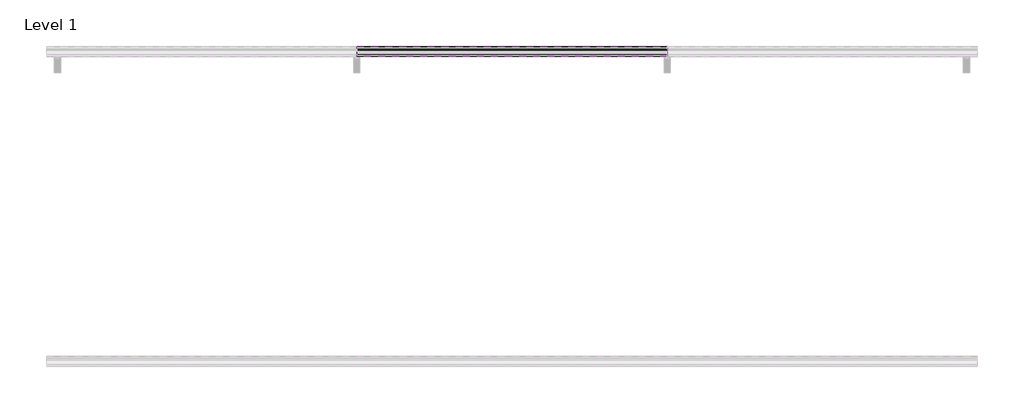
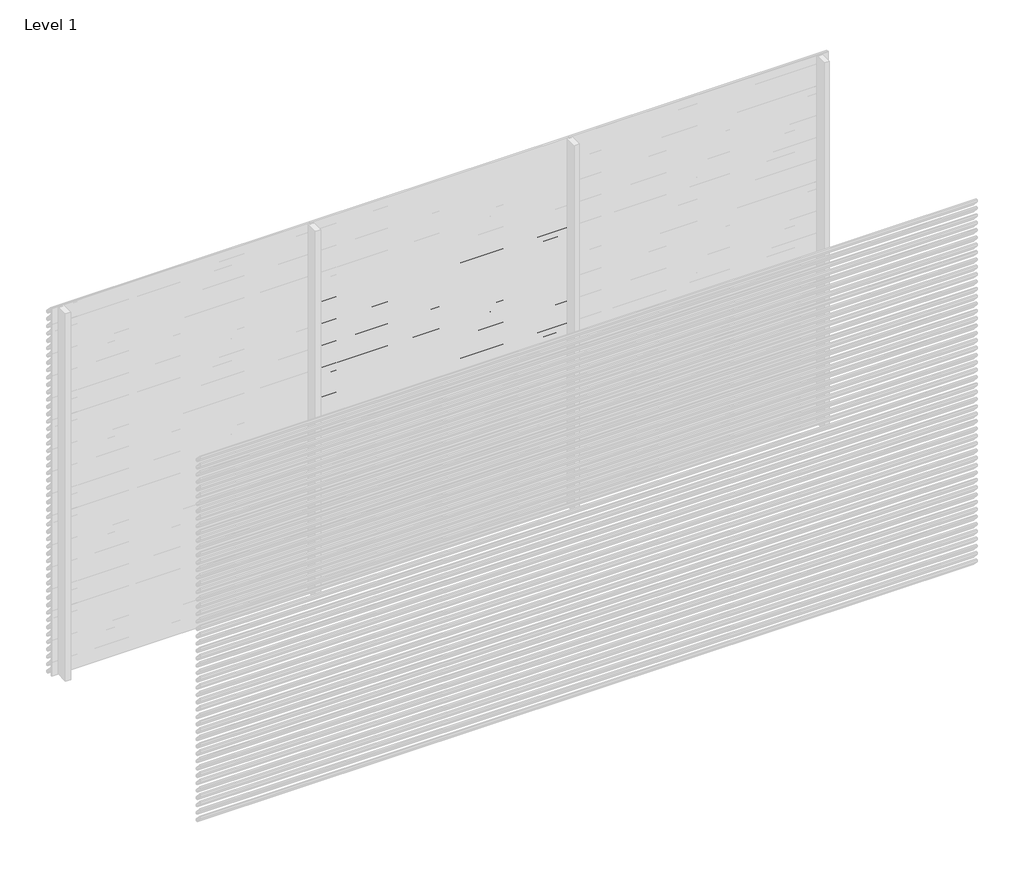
# One storey, part 57 of 153: 33 proxies.
"""IFC4 building model written with IfcOpenShell, lengths in millimetres."""

from ifc_helpers import new_model, si_unit, point, frame, frame_2d, origin, place, context, project, spatial, polyline, circle_curve, trimmed, segment, composite_curve, outline, extrude, element, save

model = new_model("IFC4")

# Units and contexts
model_context = context("Model", 3, world=origin())
ifc_project = project(units=[si_unit("LENGTHUNIT", "METRE", prefix="MILLI")], contexts=[model_context])

# Site, building, storey
site = spatial("IfcSite", under=ifc_project)
building = spatial("IfcBuilding", under=site)
storey = spatial("IfcBuildingStorey", under=building, Name="Level 1", Elevation=0.0)

# Proxies
placement = place(None, origin())
element("IfcBuildingElementProxy", 1, Name="Wall Sweeps", at=placement, inside=storey, context=model_context, shape_type="SweptSolid", body=[
    extrude(outline(composite_curve([segment(polyline([(28985.0540136, 2340.0), (28999.874191, 2338.7034025), (29049.0540136, 2285.0102749), (29049.0540136, 2273.6108187)]), True, "CONTINUOUS"), segment(trimmed(circle_curve(frame_2d((29045.7883652, 2273.897153)), 3.2781774), [point((29049.0540136, 2273.6108187))], [point((29046.4639442, 2270.6893438))], False, "CARTESIAN"), True, "CONTINUOUS"), segment(polyline([(29046.4639442, 2270.6893438), (29034.1895723, 2271.6282758), (28985.0540136, 2325.2730773), (28985.0540136, 2340.0)]), True, "CONTINUOUS")], self_intersect=False), holes=[composite_curve([segment(polyline([(28999.1621773, 2337.2599659), (28986.5540136, 2338.3630372), (28986.5540136, 2325.856213), (29034.8952036, 2273.0786805), (29046.3312542, 2272.2038762)]), True, "CONTINUOUS"), segment(trimmed(circle_curve(frame_2d((29045.7883652, 2273.897153)), 1.7781774), [point((29046.3312542, 2272.2038762))], [point((29047.5540136, 2273.6864389))], True, "CARTESIAN"), True, "CONTINUOUS"), segment(polyline([(29047.5540136, 2273.6864389), (29047.5540136, 2284.4271392), (28999.1621773, 2337.2599659)]), True, "CONTINUOUS")], self_intersect=False)]), frame((46966.6208098, 0.0, 0.0), z_axis=(1.0, 0.0, 0.0), x_axis=(0.0, 1.0, 0.0)), (0.0, 0.0, 1.0), 1999.9999998),
])
element("IfcBuildingElementProxy", 2, Name="Wall Sweeps", at=placement, inside=storey, context=model_context, shape_type="SweptSolid", body=[
    extrude(outline(composite_curve([segment(polyline([(28985.0540136, 2280.0), (28999.874191, 2278.7034025), (29049.0540136, 2225.0102749), (29049.0540136, 2213.6108187)]), True, "CONTINUOUS"), segment(trimmed(circle_curve(frame_2d((29045.7883652, 2213.897153)), 3.2781774), [point((29049.0540136, 2213.6108187))], [point((29046.4639442, 2210.6893438))], False, "CARTESIAN"), True, "CONTINUOUS"), segment(polyline([(29046.4639442, 2210.6893438), (29034.1895723, 2211.6282758), (28985.0540136, 2265.2730773), (28985.0540136, 2280.0)]), True, "CONTINUOUS")], self_intersect=False), holes=[composite_curve([segment(polyline([(28999.1621773, 2277.2599659), (28986.5540136, 2278.3630372), (28986.5540136, 2265.856213), (29034.8952036, 2213.0786805), (29046.3312542, 2212.2038762)]), True, "CONTINUOUS"), segment(trimmed(circle_curve(frame_2d((29045.7883652, 2213.897153)), 1.7781774), [point((29046.3312542, 2212.2038762))], [point((29047.5540136, 2213.6864389))], True, "CARTESIAN"), True, "CONTINUOUS"), segment(polyline([(29047.5540136, 2213.6864389), (29047.5540136, 2224.4271392), (28999.1621773, 2277.2599659)]), True, "CONTINUOUS")], self_intersect=False)]), frame((46966.6208098, 0.0, 0.0), z_axis=(1.0, 0.0, 0.0), x_axis=(0.0, 1.0, 0.0)), (0.0, 0.0, 1.0), 1999.9999998),
])
element("IfcBuildingElementProxy", 3, Name="Wall Sweeps", at=placement, inside=storey, context=model_context, shape_type="SweptSolid", body=[
    extrude(outline(composite_curve([segment(polyline([(28985.0540136, 2220.0), (28999.874191, 2218.7034025), (29049.0540136, 2165.0102749), (29049.0540136, 2153.6108187)]), True, "CONTINUOUS"), segment(trimmed(circle_curve(frame_2d((29045.7883652, 2153.897153)), 3.2781774), [point((29049.0540136, 2153.6108187))], [point((29046.4639442, 2150.6893438))], False, "CARTESIAN"), True, "CONTINUOUS"), segment(polyline([(29046.4639442, 2150.6893438), (29034.1895723, 2151.6282758), (28985.0540136, 2205.2730773), (28985.0540136, 2220.0)]), True, "CONTINUOUS")], self_intersect=False), holes=[composite_curve([segment(polyline([(28999.1621773, 2217.2599659), (28986.5540136, 2218.3630372), (28986.5540136, 2205.856213), (29034.8952036, 2153.0786805), (29046.3312542, 2152.2038762)]), True, "CONTINUOUS"), segment(trimmed(circle_curve(frame_2d((29045.7883652, 2153.897153)), 1.7781774), [point((29046.3312542, 2152.2038762))], [point((29047.5540136, 2153.6864389))], True, "CARTESIAN"), True, "CONTINUOUS"), segment(polyline([(29047.5540136, 2153.6864389), (29047.5540136, 2164.4271392), (28999.1621773, 2217.2599659)]), True, "CONTINUOUS")], self_intersect=False)]), frame((46966.6208098, 0.0, 0.0), z_axis=(1.0, 0.0, 0.0), x_axis=(0.0, 1.0, 0.0)), (0.0, 0.0, 1.0), 1999.9999998),
])
element("IfcBuildingElementProxy", 4, Name="Wall Sweeps", at=placement, inside=storey, context=model_context, shape_type="SweptSolid", body=[
    extrude(outline(composite_curve([segment(polyline([(28985.0540136, 2160.0), (28999.874191, 2158.7034025), (29049.0540136, 2105.0102749), (29049.0540136, 2093.6108187)]), True, "CONTINUOUS"), segment(trimmed(circle_curve(frame_2d((29045.7883652, 2093.897153)), 3.2781774), [point((29049.0540136, 2093.6108187))], [point((29046.4639442, 2090.6893438))], False, "CARTESIAN"), True, "CONTINUOUS"), segment(polyline([(29046.4639442, 2090.6893438), (29034.1895723, 2091.6282758), (28985.0540136, 2145.2730773), (28985.0540136, 2160.0)]), True, "CONTINUOUS")], self_intersect=False), holes=[composite_curve([segment(polyline([(28999.1621773, 2157.2599659), (28986.5540136, 2158.3630372), (28986.5540136, 2145.856213), (29034.8952036, 2093.0786805), (29046.3312542, 2092.2038762)]), True, "CONTINUOUS"), segment(trimmed(circle_curve(frame_2d((29045.7883652, 2093.897153)), 1.7781774), [point((29046.3312542, 2092.2038762))], [point((29047.5540136, 2093.6864389))], True, "CARTESIAN"), True, "CONTINUOUS"), segment(polyline([(29047.5540136, 2093.6864389), (29047.5540136, 2104.4271392), (28999.1621773, 2157.2599659)]), True, "CONTINUOUS")], self_intersect=False)]), frame((46966.6208098, 0.0, 0.0), z_axis=(1.0, 0.0, 0.0), x_axis=(0.0, 1.0, 0.0)), (0.0, 0.0, 1.0), 1999.9999998),
])
element("IfcBuildingElementProxy", 5, Name="Wall Sweeps", at=placement, inside=storey, context=model_context, shape_type="SweptSolid", body=[
    extrude(outline(composite_curve([segment(polyline([(28985.0540136, 2100.0), (28999.874191, 2098.7034025), (29049.0540136, 2045.0102749), (29049.0540136, 2033.6108187)]), True, "CONTINUOUS"), segment(trimmed(circle_curve(frame_2d((29045.7883652, 2033.897153)), 3.2781774), [point((29049.0540136, 2033.6108187))], [point((29046.4639442, 2030.6893438))], False, "CARTESIAN"), True, "CONTINUOUS"), segment(polyline([(29046.4639442, 2030.6893438), (29034.1895723, 2031.6282758), (28985.0540136, 2085.2730773), (28985.0540136, 2100.0)]), True, "CONTINUOUS")], self_intersect=False), holes=[composite_curve([segment(polyline([(28999.1621773, 2097.2599659), (28986.5540136, 2098.3630372), (28986.5540136, 2085.856213), (29034.8952036, 2033.0786805), (29046.3312542, 2032.2038762)]), True, "CONTINUOUS"), segment(trimmed(circle_curve(frame_2d((29045.7883652, 2033.897153)), 1.7781774), [point((29046.3312542, 2032.2038762))], [point((29047.5540136, 2033.6864389))], True, "CARTESIAN"), True, "CONTINUOUS"), segment(polyline([(29047.5540136, 2033.6864389), (29047.5540136, 2044.4271392), (28999.1621773, 2097.2599659)]), True, "CONTINUOUS")], self_intersect=False)]), frame((46966.6208098, 0.0, 0.0), z_axis=(1.0, 0.0, 0.0), x_axis=(0.0, 1.0, 0.0)), (0.0, 0.0, 1.0), 1999.9999998),
])
element("IfcBuildingElementProxy", 6, Name="Wall Sweeps", at=placement, inside=storey, context=model_context, shape_type="SweptSolid", body=[
    extrude(outline(composite_curve([segment(polyline([(28985.0540136, 2040.0), (28999.874191, 2038.7034025), (29049.0540136, 1985.0102749), (29049.0540136, 1973.6108187)]), True, "CONTINUOUS"), segment(trimmed(circle_curve(frame_2d((29045.7883652, 1973.897153)), 3.2781774), [point((29049.0540136, 1973.6108187))], [point((29046.4639442, 1970.6893438))], False, "CARTESIAN"), True, "CONTINUOUS"), segment(polyline([(29046.4639442, 1970.6893438), (29034.1895723, 1971.6282758), (28985.0540136, 2025.2730773), (28985.0540136, 2040.0)]), True, "CONTINUOUS")], self_intersect=False), holes=[composite_curve([segment(polyline([(28999.1621773, 2037.2599659), (28986.5540136, 2038.3630372), (28986.5540136, 2025.856213), (29034.8952036, 1973.0786805), (29046.3312542, 1972.2038762)]), True, "CONTINUOUS"), segment(trimmed(circle_curve(frame_2d((29045.7883652, 1973.897153)), 1.7781774), [point((29046.3312542, 1972.2038762))], [point((29047.5540136, 1973.6864389))], True, "CARTESIAN"), True, "CONTINUOUS"), segment(polyline([(29047.5540136, 1973.6864389), (29047.5540136, 1984.4271392), (28999.1621773, 2037.2599659)]), True, "CONTINUOUS")], self_intersect=False)]), frame((46966.6208098, 0.0, 0.0), z_axis=(1.0, 0.0, 0.0), x_axis=(0.0, 1.0, 0.0)), (0.0, 0.0, 1.0), 1999.9999998),
])
element("IfcBuildingElementProxy", 7, Name="Wall Sweeps", at=placement, inside=storey, context=model_context, shape_type="SweptSolid", body=[
    extrude(outline(composite_curve([segment(polyline([(28985.0540136, 1980.0), (28999.874191, 1978.7034025), (29049.0540136, 1925.0102749), (29049.0540136, 1913.6108187)]), True, "CONTINUOUS"), segment(trimmed(circle_curve(frame_2d((29045.7883652, 1913.897153)), 3.2781774), [point((29049.0540136, 1913.6108187))], [point((29046.4639442, 1910.6893438))], False, "CARTESIAN"), True, "CONTINUOUS"), segment(polyline([(29046.4639442, 1910.6893438), (29034.1895723, 1911.6282758), (28985.0540136, 1965.2730773), (28985.0540136, 1980.0)]), True, "CONTINUOUS")], self_intersect=False), holes=[composite_curve([segment(polyline([(28999.1621773, 1977.2599659), (28986.5540136, 1978.3630372), (28986.5540136, 1965.856213), (29034.8952036, 1913.0786805), (29046.3312542, 1912.2038762)]), True, "CONTINUOUS"), segment(trimmed(circle_curve(frame_2d((29045.7883652, 1913.897153)), 1.7781774), [point((29046.3312542, 1912.2038762))], [point((29047.5540136, 1913.6864389))], True, "CARTESIAN"), True, "CONTINUOUS"), segment(polyline([(29047.5540136, 1913.6864389), (29047.5540136, 1924.4271392), (28999.1621773, 1977.2599659)]), True, "CONTINUOUS")], self_intersect=False)]), frame((46966.6208098, 0.0, 0.0), z_axis=(1.0, 0.0, 0.0), x_axis=(0.0, 1.0, 0.0)), (0.0, 0.0, 1.0), 1999.9999998),
])
element("IfcBuildingElementProxy", 8, Name="Wall Sweeps", at=placement, inside=storey, context=model_context, shape_type="SweptSolid", body=[
    extrude(outline(composite_curve([segment(polyline([(28985.0540136, 1920.0), (28999.874191, 1918.7034025), (29049.0540136, 1865.0102749), (29049.0540136, 1853.6108187)]), True, "CONTINUOUS"), segment(trimmed(circle_curve(frame_2d((29045.7883652, 1853.897153)), 3.2781774), [point((29049.0540136, 1853.6108187))], [point((29046.4639442, 1850.6893438))], False, "CARTESIAN"), True, "CONTINUOUS"), segment(polyline([(29046.4639442, 1850.6893438), (29034.1895723, 1851.6282758), (28985.0540136, 1905.2730773), (28985.0540136, 1920.0)]), True, "CONTINUOUS")], self_intersect=False), holes=[composite_curve([segment(polyline([(28999.1621773, 1917.2599659), (28986.5540136, 1918.3630372), (28986.5540136, 1905.856213), (29034.8952036, 1853.0786805), (29046.3312542, 1852.2038762)]), True, "CONTINUOUS"), segment(trimmed(circle_curve(frame_2d((29045.7883652, 1853.897153)), 1.7781774), [point((29046.3312542, 1852.2038762))], [point((29047.5540136, 1853.6864389))], True, "CARTESIAN"), True, "CONTINUOUS"), segment(polyline([(29047.5540136, 1853.6864389), (29047.5540136, 1864.4271392), (28999.1621773, 1917.2599659)]), True, "CONTINUOUS")], self_intersect=False)]), frame((46966.6208098, 0.0, 0.0), z_axis=(1.0, 0.0, 0.0), x_axis=(0.0, 1.0, 0.0)), (0.0, 0.0, 1.0), 1999.9999998),
])
element("IfcBuildingElementProxy", 9, Name="Wall Sweeps", at=placement, inside=storey, context=model_context, shape_type="SweptSolid", body=[
    extrude(outline(composite_curve([segment(polyline([(28985.0540136, 1860.0), (28999.874191, 1858.7034025), (29049.0540136, 1805.0102749), (29049.0540136, 1793.6108187)]), True, "CONTINUOUS"), segment(trimmed(circle_curve(frame_2d((29045.7883652, 1793.897153)), 3.2781774), [point((29049.0540136, 1793.6108187))], [point((29046.4639442, 1790.6893438))], False, "CARTESIAN"), True, "CONTINUOUS"), segment(polyline([(29046.4639442, 1790.6893438), (29034.1895723, 1791.6282758), (28985.0540136, 1845.2730773), (28985.0540136, 1860.0)]), True, "CONTINUOUS")], self_intersect=False), holes=[composite_curve([segment(polyline([(28999.1621773, 1857.2599659), (28986.5540136, 1858.3630372), (28986.5540136, 1845.856213), (29034.8952036, 1793.0786805), (29046.3312542, 1792.2038762)]), True, "CONTINUOUS"), segment(trimmed(circle_curve(frame_2d((29045.7883652, 1793.897153)), 1.7781774), [point((29046.3312542, 1792.2038762))], [point((29047.5540136, 1793.6864389))], True, "CARTESIAN"), True, "CONTINUOUS"), segment(polyline([(29047.5540136, 1793.6864389), (29047.5540136, 1804.4271392), (28999.1621773, 1857.2599659)]), True, "CONTINUOUS")], self_intersect=False)]), frame((46966.6208098, 0.0, 0.0), z_axis=(1.0, 0.0, 0.0), x_axis=(0.0, 1.0, 0.0)), (0.0, 0.0, 1.0), 1999.9999998),
])
element("IfcBuildingElementProxy", 10, Name="Wall Sweeps", at=placement, inside=storey, context=model_context, shape_type="SweptSolid", body=[
    extrude(outline(composite_curve([segment(polyline([(28985.0540136, 1800.0), (28999.874191, 1798.7034025), (29049.0540136, 1745.0102749), (29049.0540136, 1733.6108187)]), True, "CONTINUOUS"), segment(trimmed(circle_curve(frame_2d((29045.7883652, 1733.897153)), 3.2781774), [point((29049.0540136, 1733.6108187))], [point((29046.4639442, 1730.6893438))], False, "CARTESIAN"), True, "CONTINUOUS"), segment(polyline([(29046.4639442, 1730.6893438), (29034.1895723, 1731.6282758), (28985.0540136, 1785.2730773), (28985.0540136, 1800.0)]), True, "CONTINUOUS")], self_intersect=False), holes=[composite_curve([segment(polyline([(28999.1621773, 1797.2599659), (28986.5540136, 1798.3630372), (28986.5540136, 1785.856213), (29034.8952036, 1733.0786805), (29046.3312542, 1732.2038762)]), True, "CONTINUOUS"), segment(trimmed(circle_curve(frame_2d((29045.7883652, 1733.897153)), 1.7781774), [point((29046.3312542, 1732.2038762))], [point((29047.5540136, 1733.6864389))], True, "CARTESIAN"), True, "CONTINUOUS"), segment(polyline([(29047.5540136, 1733.6864389), (29047.5540136, 1744.4271392), (28999.1621773, 1797.2599659)]), True, "CONTINUOUS")], self_intersect=False)]), frame((46966.6208098, 0.0, 0.0), z_axis=(1.0, 0.0, 0.0), x_axis=(0.0, 1.0, 0.0)), (0.0, 0.0, 1.0), 1999.9999998),
])
element("IfcBuildingElementProxy", 11, Name="Wall Sweeps", at=placement, inside=storey, context=model_context, shape_type="SweptSolid", body=[
    extrude(outline(composite_curve([segment(polyline([(28985.0540136, 1740.0), (28999.874191, 1738.7034025), (29049.0540136, 1685.0102749), (29049.0540136, 1673.6108187)]), True, "CONTINUOUS"), segment(trimmed(circle_curve(frame_2d((29045.7883652, 1673.897153)), 3.2781774), [point((29049.0540136, 1673.6108187))], [point((29046.4639442, 1670.6893438))], False, "CARTESIAN"), True, "CONTINUOUS"), segment(polyline([(29046.4639442, 1670.6893438), (29034.1895723, 1671.6282758), (28985.0540136, 1725.2730773), (28985.0540136, 1740.0)]), True, "CONTINUOUS")], self_intersect=False), holes=[composite_curve([segment(polyline([(28999.1621773, 1737.2599659), (28986.5540136, 1738.3630372), (28986.5540136, 1725.856213), (29034.8952036, 1673.0786805), (29046.3312542, 1672.2038762)]), True, "CONTINUOUS"), segment(trimmed(circle_curve(frame_2d((29045.7883652, 1673.897153)), 1.7781774), [point((29046.3312542, 1672.2038762))], [point((29047.5540136, 1673.6864389))], True, "CARTESIAN"), True, "CONTINUOUS"), segment(polyline([(29047.5540136, 1673.6864389), (29047.5540136, 1684.4271392), (28999.1621773, 1737.2599659)]), True, "CONTINUOUS")], self_intersect=False)]), frame((46966.6208098, 0.0, 0.0), z_axis=(1.0, 0.0, 0.0), x_axis=(0.0, 1.0, 0.0)), (0.0, 0.0, 1.0), 1999.9999998),
])
element("IfcBuildingElementProxy", 12, Name="Wall Sweeps", at=placement, inside=storey, context=model_context, shape_type="SweptSolid", body=[
    extrude(outline(composite_curve([segment(polyline([(28985.0540136, 1680.0), (28999.874191, 1678.7034025), (29049.0540136, 1625.0102749), (29049.0540136, 1613.6108187)]), True, "CONTINUOUS"), segment(trimmed(circle_curve(frame_2d((29045.7883652, 1613.897153)), 3.2781774), [point((29049.0540136, 1613.6108187))], [point((29046.4639442, 1610.6893438))], False, "CARTESIAN"), True, "CONTINUOUS"), segment(polyline([(29046.4639442, 1610.6893438), (29034.1895723, 1611.6282758), (28985.0540136, 1665.2730773), (28985.0540136, 1680.0)]), True, "CONTINUOUS")], self_intersect=False), holes=[composite_curve([segment(polyline([(28999.1621773, 1677.2599659), (28986.5540136, 1678.3630372), (28986.5540136, 1665.856213), (29034.8952036, 1613.0786805), (29046.3312542, 1612.2038762)]), True, "CONTINUOUS"), segment(trimmed(circle_curve(frame_2d((29045.7883652, 1613.897153)), 1.7781774), [point((29046.3312542, 1612.2038762))], [point((29047.5540136, 1613.6864389))], True, "CARTESIAN"), True, "CONTINUOUS"), segment(polyline([(29047.5540136, 1613.6864389), (29047.5540136, 1624.4271392), (28999.1621773, 1677.2599659)]), True, "CONTINUOUS")], self_intersect=False)]), frame((46966.6208098, 0.0, 0.0), z_axis=(1.0, 0.0, 0.0), x_axis=(0.0, 1.0, 0.0)), (0.0, 0.0, 1.0), 1999.9999998),
])
element("IfcBuildingElementProxy", 13, Name="Wall Sweeps", at=placement, inside=storey, context=model_context, shape_type="SweptSolid", body=[
    extrude(outline(composite_curve([segment(polyline([(28985.0540136, 1620.0), (28999.874191, 1618.7034025), (29049.0540136, 1565.0102749), (29049.0540136, 1553.6108187)]), True, "CONTINUOUS"), segment(trimmed(circle_curve(frame_2d((29045.7883652, 1553.897153)), 3.2781774), [point((29049.0540136, 1553.6108187))], [point((29046.4639442, 1550.6893438))], False, "CARTESIAN"), True, "CONTINUOUS"), segment(polyline([(29046.4639442, 1550.6893438), (29034.1895723, 1551.6282758), (28985.0540136, 1605.2730773), (28985.0540136, 1620.0)]), True, "CONTINUOUS")], self_intersect=False), holes=[composite_curve([segment(polyline([(28999.1621773, 1617.2599659), (28986.5540136, 1618.3630372), (28986.5540136, 1605.856213), (29034.8952036, 1553.0786805), (29046.3312542, 1552.2038762)]), True, "CONTINUOUS"), segment(trimmed(circle_curve(frame_2d((29045.7883652, 1553.897153)), 1.7781774), [point((29046.3312542, 1552.2038762))], [point((29047.5540136, 1553.6864389))], True, "CARTESIAN"), True, "CONTINUOUS"), segment(polyline([(29047.5540136, 1553.6864389), (29047.5540136, 1564.4271392), (28999.1621773, 1617.2599659)]), True, "CONTINUOUS")], self_intersect=False)]), frame((46966.6208098, 0.0, 0.0), z_axis=(1.0, 0.0, 0.0), x_axis=(0.0, 1.0, 0.0)), (0.0, 0.0, 1.0), 1999.9999998),
])
element("IfcBuildingElementProxy", 14, Name="Wall Sweeps", at=placement, inside=storey, context=model_context, shape_type="SweptSolid", body=[
    extrude(outline(composite_curve([segment(polyline([(28985.0540136, 1560.0), (28999.874191, 1558.7034025), (29049.0540136, 1505.0102749), (29049.0540136, 1493.6108187)]), True, "CONTINUOUS"), segment(trimmed(circle_curve(frame_2d((29045.7883652, 1493.897153)), 3.2781774), [point((29049.0540136, 1493.6108187))], [point((29046.4639442, 1490.6893438))], False, "CARTESIAN"), True, "CONTINUOUS"), segment(polyline([(29046.4639442, 1490.6893438), (29034.1895723, 1491.6282758), (28985.0540136, 1545.2730773), (28985.0540136, 1560.0)]), True, "CONTINUOUS")], self_intersect=False), holes=[composite_curve([segment(polyline([(28999.1621773, 1557.2599659), (28986.5540136, 1558.3630372), (28986.5540136, 1545.856213), (29034.8952036, 1493.0786805), (29046.3312542, 1492.2038762)]), True, "CONTINUOUS"), segment(trimmed(circle_curve(frame_2d((29045.7883652, 1493.897153)), 1.7781774), [point((29046.3312542, 1492.2038762))], [point((29047.5540136, 1493.6864389))], True, "CARTESIAN"), True, "CONTINUOUS"), segment(polyline([(29047.5540136, 1493.6864389), (29047.5540136, 1504.4271392), (28999.1621773, 1557.2599659)]), True, "CONTINUOUS")], self_intersect=False)]), frame((46966.6208098, 0.0, 0.0), z_axis=(1.0, 0.0, 0.0), x_axis=(0.0, 1.0, 0.0)), (0.0, 0.0, 1.0), 1999.9999998),
])
element("IfcBuildingElementProxy", 15, Name="Wall Sweeps", at=placement, inside=storey, context=model_context, shape_type="SweptSolid", body=[
    extrude(outline(composite_curve([segment(polyline([(28985.0540136, 1500.0), (28999.874191, 1498.7034025), (29049.0540136, 1445.0102749), (29049.0540136, 1433.6108187)]), True, "CONTINUOUS"), segment(trimmed(circle_curve(frame_2d((29045.7883652, 1433.897153)), 3.2781774), [point((29049.0540136, 1433.6108187))], [point((29046.4639442, 1430.6893438))], False, "CARTESIAN"), True, "CONTINUOUS"), segment(polyline([(29046.4639442, 1430.6893438), (29034.1895723, 1431.6282758), (28985.0540136, 1485.2730773), (28985.0540136, 1500.0)]), True, "CONTINUOUS")], self_intersect=False), holes=[composite_curve([segment(polyline([(28999.1621773, 1497.2599659), (28986.5540136, 1498.3630372), (28986.5540136, 1485.856213), (29034.8952036, 1433.0786805), (29046.3312542, 1432.2038762)]), True, "CONTINUOUS"), segment(trimmed(circle_curve(frame_2d((29045.7883652, 1433.897153)), 1.7781774), [point((29046.3312542, 1432.2038762))], [point((29047.5540136, 1433.6864389))], True, "CARTESIAN"), True, "CONTINUOUS"), segment(polyline([(29047.5540136, 1433.6864389), (29047.5540136, 1444.4271392), (28999.1621773, 1497.2599659)]), True, "CONTINUOUS")], self_intersect=False)]), frame((46966.6208098, 0.0, 0.0), z_axis=(1.0, 0.0, 0.0), x_axis=(0.0, 1.0, 0.0)), (0.0, 0.0, 1.0), 1999.9999998),
])
element("IfcBuildingElementProxy", 16, Name="Wall Sweeps", at=placement, inside=storey, context=model_context, shape_type="SweptSolid", body=[
    extrude(outline(composite_curve([segment(polyline([(28985.0540136, 1440.0), (28999.874191, 1438.7034025), (29049.0540136, 1385.0102749), (29049.0540136, 1373.6108187)]), True, "CONTINUOUS"), segment(trimmed(circle_curve(frame_2d((29045.7883652, 1373.897153)), 3.2781774), [point((29049.0540136, 1373.6108187))], [point((29046.4639442, 1370.6893438))], False, "CARTESIAN"), True, "CONTINUOUS"), segment(polyline([(29046.4639442, 1370.6893438), (29034.1895723, 1371.6282758), (28985.0540136, 1425.2730773), (28985.0540136, 1440.0)]), True, "CONTINUOUS")], self_intersect=False), holes=[composite_curve([segment(polyline([(28999.1621773, 1437.2599659), (28986.5540136, 1438.3630372), (28986.5540136, 1425.856213), (29034.8952036, 1373.0786805), (29046.3312542, 1372.2038762)]), True, "CONTINUOUS"), segment(trimmed(circle_curve(frame_2d((29045.7883652, 1373.897153)), 1.7781774), [point((29046.3312542, 1372.2038762))], [point((29047.5540136, 1373.6864389))], True, "CARTESIAN"), True, "CONTINUOUS"), segment(polyline([(29047.5540136, 1373.6864389), (29047.5540136, 1384.4271392), (28999.1621773, 1437.2599659)]), True, "CONTINUOUS")], self_intersect=False)]), frame((46966.6208098, 0.0, 0.0), z_axis=(1.0, 0.0, 0.0), x_axis=(0.0, 1.0, 0.0)), (0.0, 0.0, 1.0), 1999.9999998),
])
element("IfcBuildingElementProxy", 17, Name="Wall Sweeps", at=placement, inside=storey, context=model_context, shape_type="SweptSolid", body=[
    extrude(outline(composite_curve([segment(polyline([(28985.0540136, 1380.0), (28999.874191, 1378.7034025), (29049.0540136, 1325.0102749), (29049.0540136, 1313.6108187)]), True, "CONTINUOUS"), segment(trimmed(circle_curve(frame_2d((29045.7883652, 1313.897153)), 3.2781774), [point((29049.0540136, 1313.6108187))], [point((29046.4639442, 1310.6893438))], False, "CARTESIAN"), True, "CONTINUOUS"), segment(polyline([(29046.4639442, 1310.6893438), (29034.1895723, 1311.6282758), (28985.0540136, 1365.2730773), (28985.0540136, 1380.0)]), True, "CONTINUOUS")], self_intersect=False), holes=[composite_curve([segment(polyline([(28999.1621773, 1377.2599659), (28986.5540136, 1378.3630372), (28986.5540136, 1365.856213), (29034.8952036, 1313.0786805), (29046.3312542, 1312.2038762)]), True, "CONTINUOUS"), segment(trimmed(circle_curve(frame_2d((29045.7883652, 1313.897153)), 1.7781774), [point((29046.3312542, 1312.2038762))], [point((29047.5540136, 1313.6864389))], True, "CARTESIAN"), True, "CONTINUOUS"), segment(polyline([(29047.5540136, 1313.6864389), (29047.5540136, 1324.4271392), (28999.1621773, 1377.2599659)]), True, "CONTINUOUS")], self_intersect=False)]), frame((46966.6208098, 0.0, 0.0), z_axis=(1.0, 0.0, 0.0), x_axis=(0.0, 1.0, 0.0)), (0.0, 0.0, 1.0), 1999.9999998),
])
element("IfcBuildingElementProxy", 18, Name="Wall Sweeps", at=placement, inside=storey, context=model_context, shape_type="SweptSolid", body=[
    extrude(outline(composite_curve([segment(polyline([(28985.0540136, 1320.0), (28999.874191, 1318.7034025), (29049.0540136, 1265.0102749), (29049.0540136, 1253.6108187)]), True, "CONTINUOUS"), segment(trimmed(circle_curve(frame_2d((29045.7883652, 1253.897153)), 3.2781774), [point((29049.0540136, 1253.6108187))], [point((29046.4639442, 1250.6893438))], False, "CARTESIAN"), True, "CONTINUOUS"), segment(polyline([(29046.4639442, 1250.6893438), (29034.1895723, 1251.6282758), (28985.0540136, 1305.2730773), (28985.0540136, 1320.0)]), True, "CONTINUOUS")], self_intersect=False), holes=[composite_curve([segment(polyline([(28999.1621773, 1317.2599659), (28986.5540136, 1318.3630372), (28986.5540136, 1305.856213), (29034.8952036, 1253.0786805), (29046.3312542, 1252.2038762)]), True, "CONTINUOUS"), segment(trimmed(circle_curve(frame_2d((29045.7883652, 1253.897153)), 1.7781774), [point((29046.3312542, 1252.2038762))], [point((29047.5540136, 1253.6864389))], True, "CARTESIAN"), True, "CONTINUOUS"), segment(polyline([(29047.5540136, 1253.6864389), (29047.5540136, 1264.4271392), (28999.1621773, 1317.2599659)]), True, "CONTINUOUS")], self_intersect=False)]), frame((46966.6208098, 0.0, 0.0), z_axis=(1.0, 0.0, 0.0), x_axis=(0.0, 1.0, 0.0)), (0.0, 0.0, 1.0), 1999.9999998),
])
element("IfcBuildingElementProxy", 19, Name="Wall Sweeps", at=placement, inside=storey, context=model_context, shape_type="SweptSolid", body=[
    extrude(outline(composite_curve([segment(polyline([(28985.0540136, 1260.0), (28999.874191, 1258.7034025), (29049.0540136, 1205.0102749), (29049.0540136, 1193.6108187)]), True, "CONTINUOUS"), segment(trimmed(circle_curve(frame_2d((29045.7883652, 1193.897153)), 3.2781774), [point((29049.0540136, 1193.6108187))], [point((29046.4639442, 1190.6893438))], False, "CARTESIAN"), True, "CONTINUOUS"), segment(polyline([(29046.4639442, 1190.6893438), (29034.1895723, 1191.6282758), (28985.0540136, 1245.2730773), (28985.0540136, 1260.0)]), True, "CONTINUOUS")], self_intersect=False), holes=[composite_curve([segment(polyline([(28999.1621773, 1257.2599659), (28986.5540136, 1258.3630372), (28986.5540136, 1245.856213), (29034.8952036, 1193.0786805), (29046.3312542, 1192.2038762)]), True, "CONTINUOUS"), segment(trimmed(circle_curve(frame_2d((29045.7883652, 1193.897153)), 1.7781774), [point((29046.3312542, 1192.2038762))], [point((29047.5540136, 1193.6864389))], True, "CARTESIAN"), True, "CONTINUOUS"), segment(polyline([(29047.5540136, 1193.6864389), (29047.5540136, 1204.4271392), (28999.1621773, 1257.2599659)]), True, "CONTINUOUS")], self_intersect=False)]), frame((46966.6208098, 0.0, 0.0), z_axis=(1.0, 0.0, 0.0), x_axis=(0.0, 1.0, 0.0)), (0.0, 0.0, 1.0), 1999.9999998),
])
element("IfcBuildingElementProxy", 20, Name="Wall Sweeps", at=placement, inside=storey, context=model_context, shape_type="SweptSolid", body=[
    extrude(outline(composite_curve([segment(polyline([(28985.0540136, 1200.0), (28999.874191, 1198.7034025), (29049.0540136, 1145.0102749), (29049.0540136, 1133.6108187)]), True, "CONTINUOUS"), segment(trimmed(circle_curve(frame_2d((29045.7883652, 1133.897153)), 3.2781774), [point((29049.0540136, 1133.6108187))], [point((29046.4639442, 1130.6893438))], False, "CARTESIAN"), True, "CONTINUOUS"), segment(polyline([(29046.4639442, 1130.6893438), (29034.1895723, 1131.6282758), (28985.0540136, 1185.2730773), (28985.0540136, 1200.0)]), True, "CONTINUOUS")], self_intersect=False), holes=[composite_curve([segment(polyline([(28999.1621773, 1197.2599659), (28986.5540136, 1198.3630372), (28986.5540136, 1185.856213), (29034.8952036, 1133.0786805), (29046.3312542, 1132.2038762)]), True, "CONTINUOUS"), segment(trimmed(circle_curve(frame_2d((29045.7883652, 1133.897153)), 1.7781774), [point((29046.3312542, 1132.2038762))], [point((29047.5540136, 1133.6864389))], True, "CARTESIAN"), True, "CONTINUOUS"), segment(polyline([(29047.5540136, 1133.6864389), (29047.5540136, 1144.4271392), (28999.1621773, 1197.2599659)]), True, "CONTINUOUS")], self_intersect=False)]), frame((46966.6208098, 0.0, 0.0), z_axis=(1.0, 0.0, 0.0), x_axis=(0.0, 1.0, 0.0)), (0.0, 0.0, 1.0), 1999.9999998),
])
element("IfcBuildingElementProxy", 21, Name="Wall Sweeps", at=placement, inside=storey, context=model_context, shape_type="SweptSolid", body=[
    extrude(outline(composite_curve([segment(polyline([(28985.0540136, 1140.0), (28999.874191, 1138.7034025), (29049.0540136, 1085.0102749), (29049.0540136, 1073.6108187)]), True, "CONTINUOUS"), segment(trimmed(circle_curve(frame_2d((29045.7883652, 1073.897153)), 3.2781774), [point((29049.0540136, 1073.6108187))], [point((29046.4639442, 1070.6893438))], False, "CARTESIAN"), True, "CONTINUOUS"), segment(polyline([(29046.4639442, 1070.6893438), (29034.1895723, 1071.6282758), (28985.0540136, 1125.2730773), (28985.0540136, 1140.0)]), True, "CONTINUOUS")], self_intersect=False), holes=[composite_curve([segment(polyline([(28999.1621773, 1137.2599659), (28986.5540136, 1138.3630372), (28986.5540136, 1125.856213), (29034.8952036, 1073.0786805), (29046.3312542, 1072.2038762)]), True, "CONTINUOUS"), segment(trimmed(circle_curve(frame_2d((29045.7883652, 1073.897153)), 1.7781774), [point((29046.3312542, 1072.2038762))], [point((29047.5540136, 1073.6864389))], True, "CARTESIAN"), True, "CONTINUOUS"), segment(polyline([(29047.5540136, 1073.6864389), (29047.5540136, 1084.4271392), (28999.1621773, 1137.2599659)]), True, "CONTINUOUS")], self_intersect=False)]), frame((46966.6208098, 0.0, 0.0), z_axis=(1.0, 0.0, 0.0), x_axis=(0.0, 1.0, 0.0)), (0.0, 0.0, 1.0), 1999.9999998),
])
element("IfcBuildingElementProxy", 22, Name="Wall Sweeps", at=placement, inside=storey, context=model_context, shape_type="SweptSolid", body=[
    extrude(outline(composite_curve([segment(polyline([(28985.0540136, 1080.0), (28999.874191, 1078.7034025), (29049.0540136, 1025.0102749), (29049.0540136, 1013.6108187)]), True, "CONTINUOUS"), segment(trimmed(circle_curve(frame_2d((29045.7883652, 1013.897153)), 3.2781774), [point((29049.0540136, 1013.6108187))], [point((29046.4639442, 1010.6893438))], False, "CARTESIAN"), True, "CONTINUOUS"), segment(polyline([(29046.4639442, 1010.6893438), (29034.1895723, 1011.6282758), (28985.0540136, 1065.2730773), (28985.0540136, 1080.0)]), True, "CONTINUOUS")], self_intersect=False), holes=[composite_curve([segment(polyline([(28999.1621773, 1077.2599659), (28986.5540136, 1078.3630372), (28986.5540136, 1065.856213), (29034.8952036, 1013.0786805), (29046.3312542, 1012.2038762)]), True, "CONTINUOUS"), segment(trimmed(circle_curve(frame_2d((29045.7883652, 1013.897153)), 1.7781774), [point((29046.3312542, 1012.2038762))], [point((29047.5540136, 1013.6864389))], True, "CARTESIAN"), True, "CONTINUOUS"), segment(polyline([(29047.5540136, 1013.6864389), (29047.5540136, 1024.4271392), (28999.1621773, 1077.2599659)]), True, "CONTINUOUS")], self_intersect=False)]), frame((46966.6208098, 0.0, 0.0), z_axis=(1.0, 0.0, 0.0), x_axis=(0.0, 1.0, 0.0)), (0.0, 0.0, 1.0), 1999.9999998),
])
element("IfcBuildingElementProxy", 23, Name="Wall Sweeps", at=placement, inside=storey, context=model_context, shape_type="SweptSolid", body=[
    extrude(outline(composite_curve([segment(polyline([(28985.0540136, 1020.0), (28999.874191, 1018.7034025), (29049.0540136, 965.0102749), (29049.0540136, 953.6108187)]), True, "CONTINUOUS"), segment(trimmed(circle_curve(frame_2d((29045.7883652, 953.897153)), 3.2781774), [point((29049.0540136, 953.6108187))], [point((29046.4639442, 950.6893438))], False, "CARTESIAN"), True, "CONTINUOUS"), segment(polyline([(29046.4639442, 950.6893438), (29034.1895723, 951.6282758), (28985.0540136, 1005.2730773), (28985.0540136, 1020.0)]), True, "CONTINUOUS")], self_intersect=False), holes=[composite_curve([segment(polyline([(28999.1621773, 1017.2599659), (28986.5540136, 1018.3630372), (28986.5540136, 1005.856213), (29034.8952036, 953.0786805), (29046.3312542, 952.2038762)]), True, "CONTINUOUS"), segment(trimmed(circle_curve(frame_2d((29045.7883652, 953.897153)), 1.7781774), [point((29046.3312542, 952.2038762))], [point((29047.5540136, 953.6864389))], True, "CARTESIAN"), True, "CONTINUOUS"), segment(polyline([(29047.5540136, 953.6864389), (29047.5540136, 964.4271392), (28999.1621773, 1017.2599659)]), True, "CONTINUOUS")], self_intersect=False)]), frame((46966.6208098, 0.0, 0.0), z_axis=(1.0, 0.0, 0.0), x_axis=(0.0, 1.0, 0.0)), (0.0, 0.0, 1.0), 1999.9999998),
])
element("IfcBuildingElementProxy", 24, Name="Wall Sweeps", at=placement, inside=storey, context=model_context, shape_type="SweptSolid", body=[
    extrude(outline(composite_curve([segment(polyline([(28985.0540136, 960.0), (28999.874191, 958.7034025), (29049.0540136, 905.0102749), (29049.0540136, 893.6108187)]), True, "CONTINUOUS"), segment(trimmed(circle_curve(frame_2d((29045.7883652, 893.897153)), 3.2781774), [point((29049.0540136, 893.6108187))], [point((29046.4639442, 890.6893438))], False, "CARTESIAN"), True, "CONTINUOUS"), segment(polyline([(29046.4639442, 890.6893438), (29034.1895723, 891.6282758), (28985.0540136, 945.2730773), (28985.0540136, 960.0)]), True, "CONTINUOUS")], self_intersect=False), holes=[composite_curve([segment(polyline([(28999.1621773, 957.2599659), (28986.5540136, 958.3630372), (28986.5540136, 945.856213), (29034.8952036, 893.0786805), (29046.3312542, 892.2038762)]), True, "CONTINUOUS"), segment(trimmed(circle_curve(frame_2d((29045.7883652, 893.897153)), 1.7781774), [point((29046.3312542, 892.2038762))], [point((29047.5540136, 893.6864389))], True, "CARTESIAN"), True, "CONTINUOUS"), segment(polyline([(29047.5540136, 893.6864389), (29047.5540136, 904.4271392), (28999.1621773, 957.2599659)]), True, "CONTINUOUS")], self_intersect=False)]), frame((46966.6208098, 0.0, 0.0), z_axis=(1.0, 0.0, 0.0), x_axis=(0.0, 1.0, 0.0)), (0.0, 0.0, 1.0), 1999.9999998),
])
element("IfcBuildingElementProxy", 25, Name="Wall Sweeps", at=placement, inside=storey, context=model_context, shape_type="SweptSolid", body=[
    extrude(outline(composite_curve([segment(polyline([(28985.0540136, 900.0), (28999.874191, 898.7034025), (29049.0540136, 845.0102749), (29049.0540136, 833.6108187)]), True, "CONTINUOUS"), segment(trimmed(circle_curve(frame_2d((29045.7883652, 833.897153)), 3.2781774), [point((29049.0540136, 833.6108187))], [point((29046.4639442, 830.6893438))], False, "CARTESIAN"), True, "CONTINUOUS"), segment(polyline([(29046.4639442, 830.6893438), (29034.1895723, 831.6282758), (28985.0540136, 885.2730773), (28985.0540136, 900.0)]), True, "CONTINUOUS")], self_intersect=False), holes=[composite_curve([segment(polyline([(28999.1621773, 897.2599659), (28986.5540136, 898.3630372), (28986.5540136, 885.856213), (29034.8952036, 833.0786805), (29046.3312542, 832.2038762)]), True, "CONTINUOUS"), segment(trimmed(circle_curve(frame_2d((29045.7883652, 833.897153)), 1.7781774), [point((29046.3312542, 832.2038762))], [point((29047.5540136, 833.6864389))], True, "CARTESIAN"), True, "CONTINUOUS"), segment(polyline([(29047.5540136, 833.6864389), (29047.5540136, 844.4271392), (28999.1621773, 897.2599659)]), True, "CONTINUOUS")], self_intersect=False)]), frame((46966.6208098, 0.0, 0.0), z_axis=(1.0, 0.0, 0.0), x_axis=(0.0, 1.0, 0.0)), (0.0, 0.0, 1.0), 1999.9999998),
])
element("IfcBuildingElementProxy", 26, Name="Wall Sweeps", at=placement, inside=storey, context=model_context, shape_type="SweptSolid", body=[
    extrude(outline(composite_curve([segment(polyline([(28985.0540136, 840.0), (28999.874191, 838.7034025), (29049.0540136, 785.0102749), (29049.0540136, 773.6108187)]), True, "CONTINUOUS"), segment(trimmed(circle_curve(frame_2d((29045.7883652, 773.897153)), 3.2781774), [point((29049.0540136, 773.6108187))], [point((29046.4639442, 770.6893438))], False, "CARTESIAN"), True, "CONTINUOUS"), segment(polyline([(29046.4639442, 770.6893438), (29034.1895723, 771.6282758), (28985.0540136, 825.2730773), (28985.0540136, 840.0)]), True, "CONTINUOUS")], self_intersect=False), holes=[composite_curve([segment(polyline([(28999.1621773, 837.2599659), (28986.5540136, 838.3630372), (28986.5540136, 825.856213), (29034.8952036, 773.0786805), (29046.3312542, 772.2038762)]), True, "CONTINUOUS"), segment(trimmed(circle_curve(frame_2d((29045.7883652, 773.897153)), 1.7781774), [point((29046.3312542, 772.2038762))], [point((29047.5540136, 773.6864389))], True, "CARTESIAN"), True, "CONTINUOUS"), segment(polyline([(29047.5540136, 773.6864389), (29047.5540136, 784.4271392), (28999.1621773, 837.2599659)]), True, "CONTINUOUS")], self_intersect=False)]), frame((46966.6208098, 0.0, 0.0), z_axis=(1.0, 0.0, 0.0), x_axis=(0.0, 1.0, 0.0)), (0.0, 0.0, 1.0), 1999.9999998),
])
element("IfcBuildingElementProxy", 27, Name="Wall Sweeps", at=placement, inside=storey, context=model_context, shape_type="SweptSolid", body=[
    extrude(outline(composite_curve([segment(polyline([(28985.0540136, 780.0), (28999.874191, 778.7034025), (29049.0540136, 725.0102749), (29049.0540136, 713.6108187)]), True, "CONTINUOUS"), segment(trimmed(circle_curve(frame_2d((29045.7883652, 713.897153)), 3.2781774), [point((29049.0540136, 713.6108187))], [point((29046.4639442, 710.6893438))], False, "CARTESIAN"), True, "CONTINUOUS"), segment(polyline([(29046.4639442, 710.6893438), (29034.1895723, 711.6282758), (28985.0540136, 765.2730773), (28985.0540136, 780.0)]), True, "CONTINUOUS")], self_intersect=False), holes=[composite_curve([segment(polyline([(28999.1621773, 777.2599659), (28986.5540136, 778.3630372), (28986.5540136, 765.856213), (29034.8952036, 713.0786805), (29046.3312542, 712.2038762)]), True, "CONTINUOUS"), segment(trimmed(circle_curve(frame_2d((29045.7883652, 713.897153)), 1.7781774), [point((29046.3312542, 712.2038762))], [point((29047.5540136, 713.6864389))], True, "CARTESIAN"), True, "CONTINUOUS"), segment(polyline([(29047.5540136, 713.6864389), (29047.5540136, 724.4271392), (28999.1621773, 777.2599659)]), True, "CONTINUOUS")], self_intersect=False)]), frame((46966.6208098, 0.0, 0.0), z_axis=(1.0, 0.0, 0.0), x_axis=(0.0, 1.0, 0.0)), (0.0, 0.0, 1.0), 1999.9999998),
])
element("IfcBuildingElementProxy", 28, Name="Wall Sweeps", at=placement, inside=storey, context=model_context, shape_type="SweptSolid", body=[
    extrude(outline(composite_curve([segment(polyline([(28985.0540136, 720.0), (28999.874191, 718.7034025), (29049.0540136, 665.0102749), (29049.0540136, 653.6108187)]), True, "CONTINUOUS"), segment(trimmed(circle_curve(frame_2d((29045.7883652, 653.897153)), 3.2781774), [point((29049.0540136, 653.6108187))], [point((29046.4639442, 650.6893438))], False, "CARTESIAN"), True, "CONTINUOUS"), segment(polyline([(29046.4639442, 650.6893438), (29034.1895723, 651.6282758), (28985.0540136, 705.2730773), (28985.0540136, 720.0)]), True, "CONTINUOUS")], self_intersect=False), holes=[composite_curve([segment(polyline([(28999.1621773, 717.2599659), (28986.5540136, 718.3630372), (28986.5540136, 705.856213), (29034.8952036, 653.0786805), (29046.3312542, 652.2038762)]), True, "CONTINUOUS"), segment(trimmed(circle_curve(frame_2d((29045.7883652, 653.897153)), 1.7781774), [point((29046.3312542, 652.2038762))], [point((29047.5540136, 653.6864389))], True, "CARTESIAN"), True, "CONTINUOUS"), segment(polyline([(29047.5540136, 653.6864389), (29047.5540136, 664.4271392), (28999.1621773, 717.2599659)]), True, "CONTINUOUS")], self_intersect=False)]), frame((46966.6208098, 0.0, 0.0), z_axis=(1.0, 0.0, 0.0), x_axis=(0.0, 1.0, 0.0)), (0.0, 0.0, 1.0), 1999.9999998),
])
element("IfcBuildingElementProxy", 29, Name="Wall Sweeps", at=placement, inside=storey, context=model_context, shape_type="SweptSolid", body=[
    extrude(outline(composite_curve([segment(polyline([(28985.0540136, 660.0), (28999.874191, 658.7034025), (29049.0540136, 605.0102749), (29049.0540136, 593.6108187)]), True, "CONTINUOUS"), segment(trimmed(circle_curve(frame_2d((29045.7883652, 593.897153)), 3.2781774), [point((29049.0540136, 593.6108187))], [point((29046.4639442, 590.6893438))], False, "CARTESIAN"), True, "CONTINUOUS"), segment(polyline([(29046.4639442, 590.6893438), (29034.1895723, 591.6282758), (28985.0540136, 645.2730773), (28985.0540136, 660.0)]), True, "CONTINUOUS")], self_intersect=False), holes=[composite_curve([segment(polyline([(28999.1621773, 657.2599659), (28986.5540136, 658.3630372), (28986.5540136, 645.856213), (29034.8952036, 593.0786805), (29046.3312542, 592.2038762)]), True, "CONTINUOUS"), segment(trimmed(circle_curve(frame_2d((29045.7883652, 593.897153)), 1.7781774), [point((29046.3312542, 592.2038762))], [point((29047.5540136, 593.6864389))], True, "CARTESIAN"), True, "CONTINUOUS"), segment(polyline([(29047.5540136, 593.6864389), (29047.5540136, 604.4271392), (28999.1621773, 657.2599659)]), True, "CONTINUOUS")], self_intersect=False)]), frame((46966.6208098, 0.0, 0.0), z_axis=(1.0, 0.0, 0.0), x_axis=(0.0, 1.0, 0.0)), (0.0, 0.0, 1.0), 1999.9999998),
])
element("IfcBuildingElementProxy", 30, Name="Wall Sweeps", at=placement, inside=storey, context=model_context, shape_type="SweptSolid", body=[
    extrude(outline(composite_curve([segment(polyline([(28985.0540136, 600.0), (28999.874191, 598.7034025), (29049.0540136, 545.0102749), (29049.0540136, 533.6108187)]), True, "CONTINUOUS"), segment(trimmed(circle_curve(frame_2d((29045.7883652, 533.897153)), 3.2781774), [point((29049.0540136, 533.6108187))], [point((29046.4639442, 530.6893438))], False, "CARTESIAN"), True, "CONTINUOUS"), segment(polyline([(29046.4639442, 530.6893438), (29034.1895723, 531.6282758), (28985.0540136, 585.2730773), (28985.0540136, 600.0)]), True, "CONTINUOUS")], self_intersect=False), holes=[composite_curve([segment(polyline([(28999.1621773, 597.2599659), (28986.5540136, 598.3630372), (28986.5540136, 585.856213), (29034.8952036, 533.0786805), (29046.3312542, 532.2038762)]), True, "CONTINUOUS"), segment(trimmed(circle_curve(frame_2d((29045.7883652, 533.897153)), 1.7781774), [point((29046.3312542, 532.2038762))], [point((29047.5540136, 533.6864389))], True, "CARTESIAN"), True, "CONTINUOUS"), segment(polyline([(29047.5540136, 533.6864389), (29047.5540136, 544.4271392), (28999.1621773, 597.2599659)]), True, "CONTINUOUS")], self_intersect=False)]), frame((46966.6208098, 0.0, 0.0), z_axis=(1.0, 0.0, 0.0), x_axis=(0.0, 1.0, 0.0)), (0.0, 0.0, 1.0), 1999.9999998),
])
element("IfcBuildingElementProxy", 31, Name="Wall Sweeps", at=placement, inside=storey, context=model_context, shape_type="SweptSolid", body=[
    extrude(outline(composite_curve([segment(polyline([(28985.0540136, 540.0), (28999.874191, 538.7034025), (29049.0540136, 485.0102749), (29049.0540136, 473.6108187)]), True, "CONTINUOUS"), segment(trimmed(circle_curve(frame_2d((29045.7883652, 473.897153)), 3.2781774), [point((29049.0540136, 473.6108187))], [point((29046.4639442, 470.6893438))], False, "CARTESIAN"), True, "CONTINUOUS"), segment(polyline([(29046.4639442, 470.6893438), (29034.1895723, 471.6282758), (28985.0540136, 525.2730773), (28985.0540136, 540.0)]), True, "CONTINUOUS")], self_intersect=False), holes=[composite_curve([segment(polyline([(28999.1621773, 537.2599659), (28986.5540136, 538.3630372), (28986.5540136, 525.856213), (29034.8952036, 473.0786805), (29046.3312542, 472.2038762)]), True, "CONTINUOUS"), segment(trimmed(circle_curve(frame_2d((29045.7883652, 473.897153)), 1.7781774), [point((29046.3312542, 472.2038762))], [point((29047.5540136, 473.6864389))], True, "CARTESIAN"), True, "CONTINUOUS"), segment(polyline([(29047.5540136, 473.6864389), (29047.5540136, 484.4271392), (28999.1621773, 537.2599659)]), True, "CONTINUOUS")], self_intersect=False)]), frame((46966.6208098, 0.0, 0.0), z_axis=(1.0, 0.0, 0.0), x_axis=(0.0, 1.0, 0.0)), (0.0, 0.0, 1.0), 1999.9999998),
])
element("IfcBuildingElementProxy", 32, Name="Wall Sweeps", at=placement, inside=storey, context=model_context, shape_type="SweptSolid", body=[
    extrude(outline(composite_curve([segment(polyline([(28985.0540136, 480.0), (28999.874191, 478.7034025), (29049.0540136, 425.0102749), (29049.0540136, 413.6108187)]), True, "CONTINUOUS"), segment(trimmed(circle_curve(frame_2d((29045.7883652, 413.897153)), 3.2781774), [point((29049.0540136, 413.6108187))], [point((29046.4639442, 410.6893438))], False, "CARTESIAN"), True, "CONTINUOUS"), segment(polyline([(29046.4639442, 410.6893438), (29034.1895723, 411.6282758), (28985.0540136, 465.2730773), (28985.0540136, 480.0)]), True, "CONTINUOUS")], self_intersect=False), holes=[composite_curve([segment(polyline([(28999.1621773, 477.2599659), (28986.5540136, 478.3630372), (28986.5540136, 465.856213), (29034.8952036, 413.0786805), (29046.3312542, 412.2038762)]), True, "CONTINUOUS"), segment(trimmed(circle_curve(frame_2d((29045.7883652, 413.897153)), 1.7781774), [point((29046.3312542, 412.2038762))], [point((29047.5540136, 413.6864389))], True, "CARTESIAN"), True, "CONTINUOUS"), segment(polyline([(29047.5540136, 413.6864389), (29047.5540136, 424.4271392), (28999.1621773, 477.2599659)]), True, "CONTINUOUS")], self_intersect=False)]), frame((46966.6208098, 0.0, 0.0), z_axis=(1.0, 0.0, 0.0), x_axis=(0.0, 1.0, 0.0)), (0.0, 0.0, 1.0), 1999.9999998),
])
element("IfcBuildingElementProxy", 33, Name="Wall Sweeps", at=placement, inside=storey, context=model_context, shape_type="SweptSolid", body=[
    extrude(outline(composite_curve([segment(polyline([(28985.0540136, 420.0), (28999.874191, 418.7034025), (29049.0540136, 365.0102749), (29049.0540136, 353.6108187)]), True, "CONTINUOUS"), segment(trimmed(circle_curve(frame_2d((29045.7883652, 353.897153)), 3.2781774), [point((29049.0540136, 353.6108187))], [point((29046.4639442, 350.6893438))], False, "CARTESIAN"), True, "CONTINUOUS"), segment(polyline([(29046.4639442, 350.6893438), (29034.1895723, 351.6282758), (28985.0540136, 405.2730773), (28985.0540136, 420.0)]), True, "CONTINUOUS")], self_intersect=False), holes=[composite_curve([segment(polyline([(28999.1621773, 417.2599659), (28986.5540136, 418.3630372), (28986.5540136, 405.856213), (29034.8952036, 353.0786805), (29046.3312542, 352.2038762)]), True, "CONTINUOUS"), segment(trimmed(circle_curve(frame_2d((29045.7883652, 353.897153)), 1.7781774), [point((29046.3312542, 352.2038762))], [point((29047.5540136, 353.6864389))], True, "CARTESIAN"), True, "CONTINUOUS"), segment(polyline([(29047.5540136, 353.6864389), (29047.5540136, 364.4271392), (28999.1621773, 417.2599659)]), True, "CONTINUOUS")], self_intersect=False)]), frame((46966.6208098, 0.0, 0.0), z_axis=(1.0, 0.0, 0.0), x_axis=(0.0, 1.0, 0.0)), (0.0, 0.0, 1.0), 1999.9999998),
])

save(model, "model.ifc")
